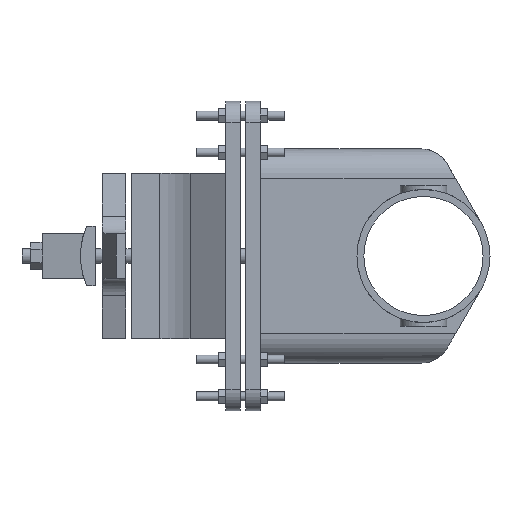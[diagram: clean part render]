
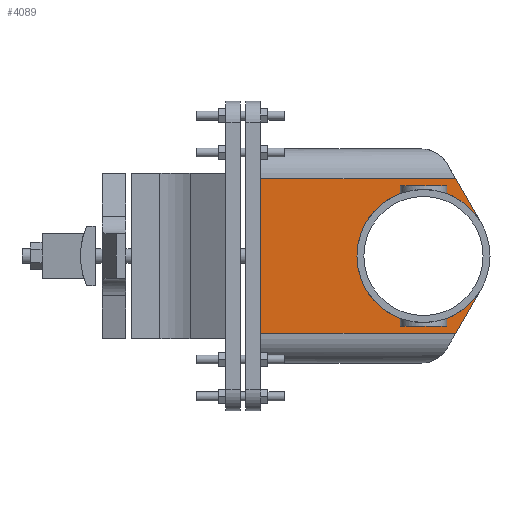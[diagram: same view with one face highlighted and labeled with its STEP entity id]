
A CAD part, left-side view. The second image highlights one B-rep face of the part: STEP entity #4089.
In plain terms, the highlighted planar face has unit normal (-1, 0, 0).
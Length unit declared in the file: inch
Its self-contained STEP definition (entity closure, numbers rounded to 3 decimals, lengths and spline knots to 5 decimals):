
#184=CIRCLE('',#4352,2.25);
#185=CIRCLE('',#4353,2.25);
#186=CIRCLE('',#4354,2.25);
#333=FACE_OUTER_BOUND('',#560,.T.);
#560=EDGE_LOOP('',(#2783,#2784,#2785,#2786,#2787,#2788,#2789,#2790,#2791,
#2792,#2793,#2794,#2795,#2796));
#891=LINE('',#6035,#1313);
#899=LINE('',#6065,#1321);
#909=LINE('',#6092,#1331);
#911=LINE('',#6096,#1333);
#912=LINE('',#6100,#1334);
#913=LINE('',#6102,#1335);
#914=LINE('',#6104,#1336);
#915=LINE('',#6108,#1337);
#916=LINE('',#6110,#1338);
#917=LINE('',#6112,#1339);
#918=LINE('',#6114,#1340);
#1313=VECTOR('',#4862,0.3937);
#1321=VECTOR('',#4892,0.3937);
#1331=VECTOR('',#4914,0.3937);
#1333=VECTOR('',#4918,0.3937);
#1334=VECTOR('',#4921,0.3937);
#1335=VECTOR('',#4922,0.3937);
#1336=VECTOR('',#4923,0.3937);
#1337=VECTOR('',#4926,0.3937);
#1338=VECTOR('',#4927,0.3937);
#1339=VECTOR('',#4928,0.3937);
#1340=VECTOR('',#4931,0.3937);
#1708=VERTEX_POINT('',#6033);
#1709=VERTEX_POINT('',#6034);
#1719=VERTEX_POINT('',#6062);
#1720=VERTEX_POINT('',#6064);
#1731=VERTEX_POINT('',#6091);
#1732=VERTEX_POINT('',#6095);
#1733=VERTEX_POINT('',#6097);
#1734=VERTEX_POINT('',#6099);
#1735=VERTEX_POINT('',#6101);
#1736=VERTEX_POINT('',#6103);
#1737=VERTEX_POINT('',#6105);
#1738=VERTEX_POINT('',#6107);
#1739=VERTEX_POINT('',#6109);
#1740=VERTEX_POINT('',#6111);
#2116=EDGE_CURVE('',#1708,#1709,#891,.T.);
#2131=EDGE_CURVE('',#1719,#1720,#899,.T.);
#2145=EDGE_CURVE('',#1731,#1720,#909,.T.);
#2147=EDGE_CURVE('',#1708,#1732,#911,.T.);
#2148=EDGE_CURVE('',#1733,#1732,#184,.T.);
#2149=EDGE_CURVE('',#1733,#1734,#912,.T.);
#2150=EDGE_CURVE('',#1734,#1735,#913,.T.);
#2151=EDGE_CURVE('',#1735,#1736,#914,.T.);
#2152=EDGE_CURVE('',#1737,#1736,#185,.T.);
#2153=EDGE_CURVE('',#1737,#1738,#915,.T.);
#2154=EDGE_CURVE('',#1738,#1739,#916,.T.);
#2155=EDGE_CURVE('',#1739,#1740,#917,.T.);
#2156=EDGE_CURVE('',#1731,#1740,#186,.T.);
#2157=EDGE_CURVE('',#1719,#1709,#918,.T.);
#2783=ORIENTED_EDGE('',*,*,#2116,.F.);
#2784=ORIENTED_EDGE('',*,*,#2147,.T.);
#2785=ORIENTED_EDGE('',*,*,#2148,.F.);
#2786=ORIENTED_EDGE('',*,*,#2149,.T.);
#2787=ORIENTED_EDGE('',*,*,#2150,.T.);
#2788=ORIENTED_EDGE('',*,*,#2151,.T.);
#2789=ORIENTED_EDGE('',*,*,#2152,.F.);
#2790=ORIENTED_EDGE('',*,*,#2153,.T.);
#2791=ORIENTED_EDGE('',*,*,#2154,.T.);
#2792=ORIENTED_EDGE('',*,*,#2155,.T.);
#2793=ORIENTED_EDGE('',*,*,#2156,.F.);
#2794=ORIENTED_EDGE('',*,*,#2145,.T.);
#2795=ORIENTED_EDGE('',*,*,#2131,.F.);
#2796=ORIENTED_EDGE('',*,*,#2157,.T.);
#3692=PLANE('',#4351);
#4089=ADVANCED_FACE('',(#333),#3692,.F.);
#4351=AXIS2_PLACEMENT_3D('',#6094,#4916,#4917);
#4352=AXIS2_PLACEMENT_3D('',#6098,#4919,#4920);
#4353=AXIS2_PLACEMENT_3D('',#6106,#4924,#4925);
#4354=AXIS2_PLACEMENT_3D('',#6113,#4929,#4930);
#4862=DIRECTION('',(0.,1.,0.));
#4892=DIRECTION('',(0.,-1.,0.));
#4914=DIRECTION('',(0.,0.5,0.866));
#4916=DIRECTION('center_axis',(1.,0.,0.));
#4917=DIRECTION('ref_axis',(0.,0.,-1.));
#4918=DIRECTION('',(0.,-0.5,0.866));
#4919=DIRECTION('center_axis',(-1.,0.,0.));
#4920=DIRECTION('ref_axis',(0.,1.,0.));
#4921=DIRECTION('',(0.,0.,-1.));
#4922=DIRECTION('',(0.,1.,0.));
#4923=DIRECTION('',(0.,0.,1.));
#4924=DIRECTION('center_axis',(-1.,0.,0.));
#4925=DIRECTION('ref_axis',(0.,1.,0.));
#4926=DIRECTION('',(0.,0.,1.));
#4927=DIRECTION('',(0.,-1.,0.));
#4928=DIRECTION('',(0.,0.,-1.));
#4929=DIRECTION('center_axis',(-1.,0.,0.));
#4930=DIRECTION('ref_axis',(0.,1.,0.));
#4931=DIRECTION('',(0.,0.,-1.));
#6033=CARTESIAN_POINT('',(-2.,-1.08542,-2.62));
#6034=CARTESIAN_POINT('',(-2.,5.51,-2.62));
#6035=CARTESIAN_POINT('',(-2.,0.84874,-2.62));
#6062=CARTESIAN_POINT('',(-2.,5.51,2.62));
#6064=CARTESIAN_POINT('',(-2.,-1.08542,2.62));
#6065=CARTESIAN_POINT('',(-2.,3.85777,2.62));
#6091=CARTESIAN_POINT('',(-2.,-1.94856,1.125));
#6092=CARTESIAN_POINT('',(-2.,-1.94856,1.125));
#6094=CARTESIAN_POINT('Origin',(-2.,2.20554,0.));
#6095=CARTESIAN_POINT('',(-2.,-1.94856,-1.125));
#6096=CARTESIAN_POINT('',(-2.,-0.50807,-3.62));
#6097=CARTESIAN_POINT('',(-2.,-0.32404,-2.22654));
#6098=CARTESIAN_POINT('Origin',(-2.,0.,0.));
#6099=CARTESIAN_POINT('',(-2.,-0.32404,-2.3755));
#6100=CARTESIAN_POINT('',(-2.,-0.32404,0.));
#6101=CARTESIAN_POINT('',(-2.,0.32404,-2.3755));
#6102=CARTESIAN_POINT('',(-2.,1.10277,-2.3755));
#6103=CARTESIAN_POINT('',(-2.,0.32404,-2.22654));
#6104=CARTESIAN_POINT('',(-2.,0.32404,0.));
#6105=CARTESIAN_POINT('',(-2.,0.32404,2.22654));
#6106=CARTESIAN_POINT('Origin',(-2.,0.,0.));
#6107=CARTESIAN_POINT('',(-2.,0.32404,2.3755));
#6108=CARTESIAN_POINT('',(-2.,0.32404,0.));
#6109=CARTESIAN_POINT('',(-2.,-0.32404,2.3755));
#6110=CARTESIAN_POINT('',(-2.,1.10277,2.3755));
#6111=CARTESIAN_POINT('',(-2.,-0.32404,2.22654));
#6112=CARTESIAN_POINT('',(-2.,-0.32404,0.));
#6113=CARTESIAN_POINT('Origin',(-2.,0.,0.));
#6114=CARTESIAN_POINT('',(-2.,5.51,3.62));
